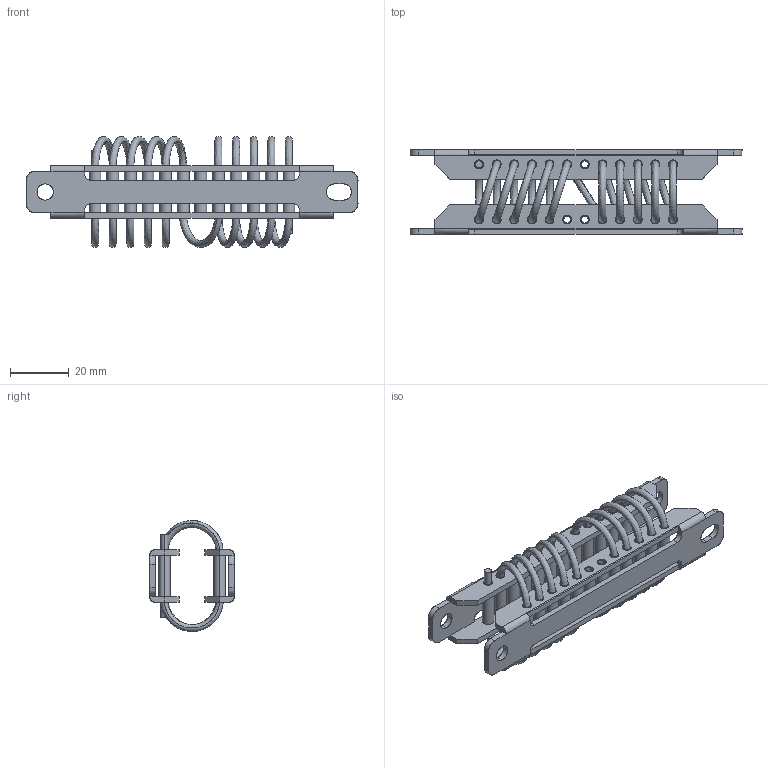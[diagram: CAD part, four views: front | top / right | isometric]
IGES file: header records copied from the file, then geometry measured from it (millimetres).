
Start section: SolidWorks IGES file using analytic representation for surfaces
Bounding box: 113 x 28.8 x 37.79 mm (x, y, z)
Surface area: 22179 mm2 (no closed solid volume)
Topology: 0 solids, 0 shells, 282 faces, 7888 edges, 7888 vertices
Faces by surface type: bspline 194, revolution 88
